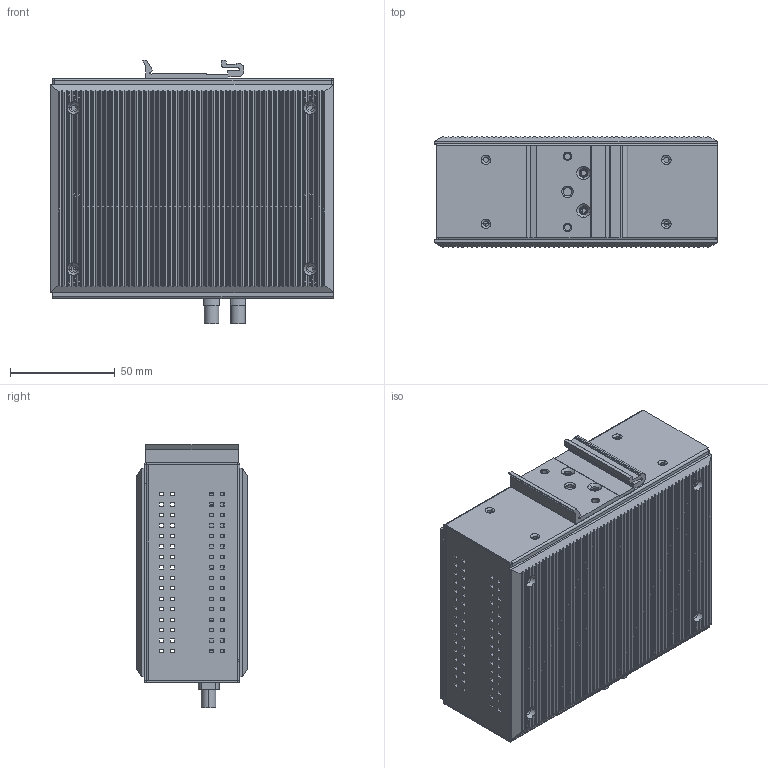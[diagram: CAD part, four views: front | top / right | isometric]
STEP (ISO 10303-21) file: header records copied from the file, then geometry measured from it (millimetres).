
FILE_DESCRIPTION((''),'2;1');
FILE_NAME('IMC-101-M-ST','2010-08-19T',('Chialu_Chang'),(''),'PRO/ENGINEER BY PARAMETRIC TECHNOLOGY CORPORATION, 2004440','PRO/ENGINEER BY PARAMETRIC TECHNOLOGY CORPORATION, 2004440','');
FILE_SCHEMA(('CONFIG_CONTROL_DESIGN'));
Length unit declared in the file: millimetre
Products named in the file (1): IMC-101-M-ST
Bounding box: 135.11 x 52.98 x 125.87 mm (x, y, z)
Surface area: 231737.7 mm2 (no closed solid volume)
Topology: 0 solids, 41 shells, 2184 faces, 5865 edges, 3819 vertices
Faces by surface type: plane 1336, cylinder 690, cone 108, torus 40, bspline 10
Entity records: 68862 total; most frequent: CARTESIAN_POINT 14082, ORIENTED_EDGE 11642, DIRECTION 10683, EDGE_CURVE 5845, VECTOR 4009, LINE 4009, VERTEX_POINT 3819, AXIS2_PLACEMENT_3D 3337
